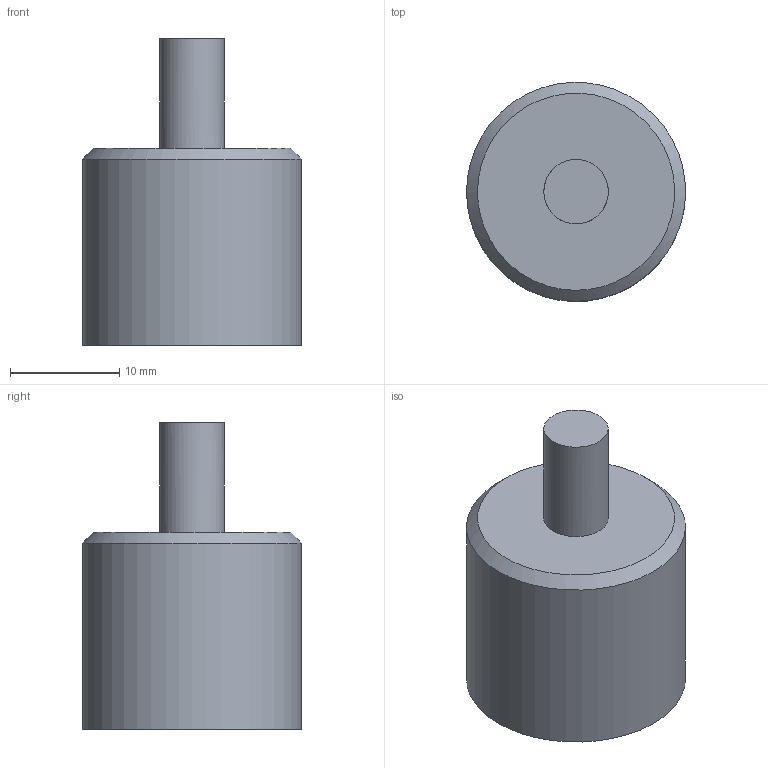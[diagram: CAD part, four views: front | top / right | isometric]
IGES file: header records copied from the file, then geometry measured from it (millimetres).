
Global section: file name: PMH-0-20x18; native system: unknown; preprocessor: unknown; author: unknown; organization: unknown; date: 20221128.165115; units: millimetre
Bounding box: 19.99 x 19.98 x 28 mm (x, y, z)
Volume: 5901.9 mm3; surface area: 1913 mm2
Topology: 1 solids, 1 shells, 10 faces, 14 edges, 9 vertices
Faces by surface type: bspline 10
